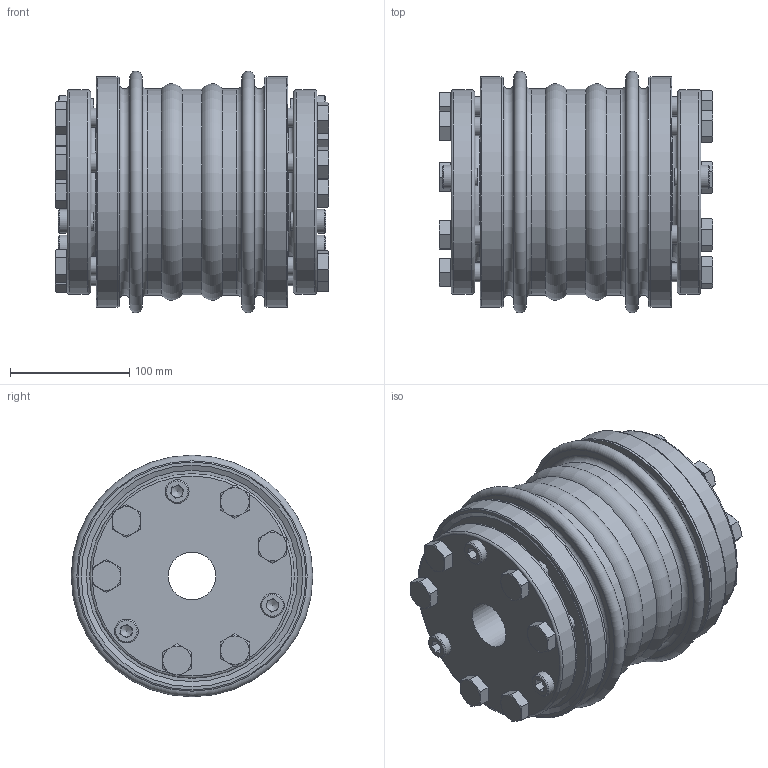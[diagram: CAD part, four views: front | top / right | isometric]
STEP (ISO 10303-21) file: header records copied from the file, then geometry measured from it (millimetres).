
FILE_DESCRIPTION( ( 'Unknown' ), '1' );
FILE_NAME( 'F:/JAKOB-STEP+IGES-Dateien/STEP-Dateien/KSS/KSS 2500.stp', 'Unknown', ( 'Unknown' ), ( 'Unknown' ), 'PSStep 10.1', 'Unknown', ' ' );
FILE_SCHEMA( ( 'AUTOMOTIVE_DESIGN { 1 0 10303 214 1 1 1 1 }' ) );
Length unit declared in the file: millimetre
Products named in the file (1): kt101318-oa7
Bounding box: 230 x 203 x 203 mm (x, y, z)
Volume: 3205471.9 mm3; surface area: 520275.1 mm2
Topology: 1 solids, 1 shells, 448 faces, 996 edges, 636 vertices
Faces by surface type: plane 232, cone 102, cylinder 84, torus 30
Full cylindrical faces by diameter (mm): 14 x12, 15 x6, 16 x12, 17 x12, 18.5 x6, 20 x6, 22.5 x12, 40 x2, 116 x2, 168 x2, 170.407 x1, 171 x2, 172 x2, 172.607 x1, 173.2 x2, 193.2 x2, 193.5 x2
Entity records: 14956 total; most frequent: CARTESIAN_POINT 2491, DIRECTION 1854, ORIENTED_EDGE 1532, AXIS2_PLACEMENT_3D 783, EDGE_CURVE 766, EDGE_LOOP 704, FACE_OUTER_BOUND 562, VERTEX_POINT 556
